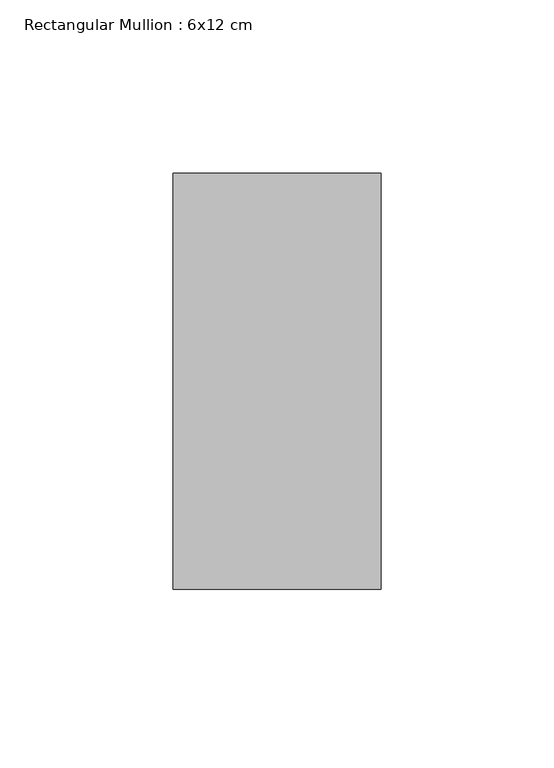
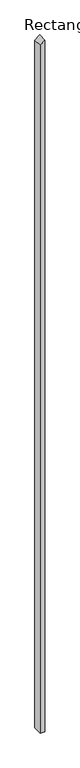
"""IFC4 building model written with IfcOpenShell, lengths in millimetres: member geometry, Rectangular Mullion : 6x12 cm."""

from ifc_helpers import new_model, si_unit, frame, origin, place, context, project, spatial, polyline, outline, extrude, source, transform, mapped, element, save


def rectangular_mullion_6x12_cm_cf1e6a7c(model_context):
    return source(origin(), model_context, "Body", "SweptSolid", [
        extrude(outline(polyline([(-53.2294579, 30.0), (-104.1141863, -30.0), (-9523.3374065, -30.0), (-9523.3374065, 30.0), (-53.2294579, 30.0)])), frame((0.0, 85.0, 0.0), z_axis=(0.0, 1.0, 0.0), x_axis=(0.0, 0.0, 1.0)), (0.0, 0.0, 1.0), 120.0),
    ])


if __name__ == "__main__":
    model = new_model("IFC4")
    model_context = context("Model", 3, world=origin())
    ifc_project = project(units=[si_unit("LENGTHUNIT", "METRE", prefix="MILLI")], contexts=[model_context])
    site = spatial("IfcSite", under=ifc_project)
    building = spatial("IfcBuilding", under=site)
    placement = place(None, origin())
    rectangular_mullion_6x12_cm_shape = rectangular_mullion_6x12_cm_cf1e6a7c(model_context)
    element("IfcMember", 1, ObjectType="Rectangular Mullion : 6x12 cm", at=placement, inside=building, context=model_context, shape_type="MappedRepresentation", body=[
        mapped(rectangular_mullion_6x12_cm_shape, transform((0.0, 0.0, 0.0), x_axis=(1.0, 0.0, 0.0), y_axis=(0.0, 1.0, 0.0), z_axis=(0.0, 0.0, 1.0))),
    ])
    save(model, "model.ifc")
